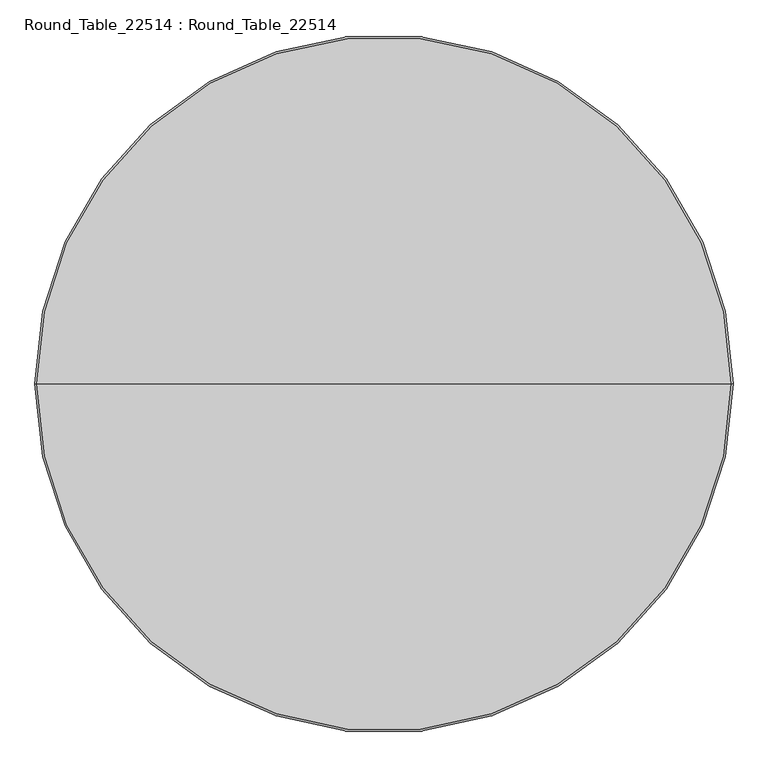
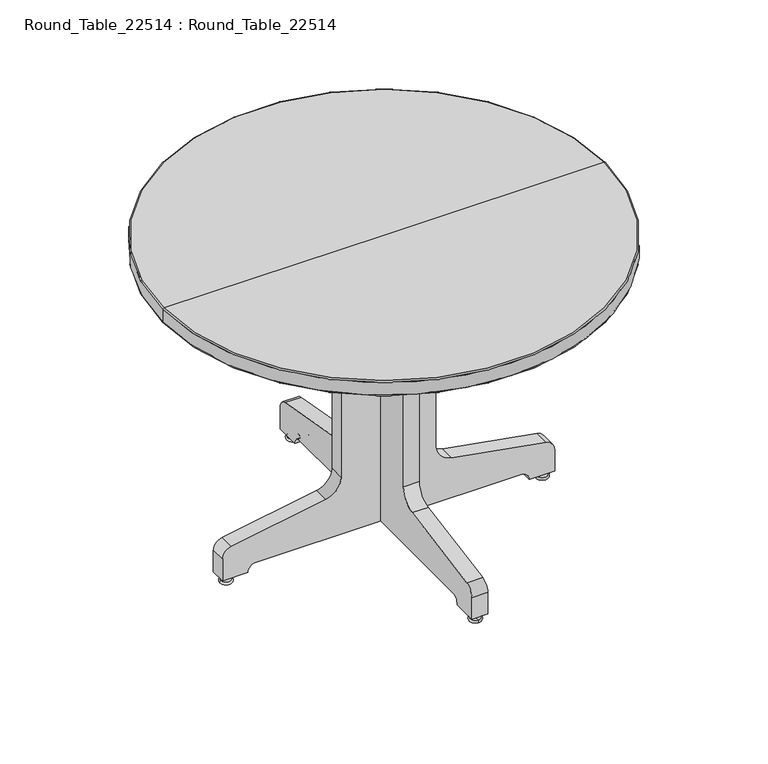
"""IFC4 building model written with IfcOpenShell, lengths in millimetres: furniture geometry, Round_Table_22514 : Round_Table_22514."""

from ifc_helpers import new_model, si_unit, point, frame, frame_2d, origin, place, context, project, spatial, polyline, circle_curve, ellipse_curve, trimmed, segment, composite_curve, outline, extrude, source, transform, mapped, element, save
from ifc_brep_helpers import plane_surface, cylinder_surface, revolved_surface, advanced_brep


def round_table_22514_round_table_22514_44ccc18d(model_context):
    return source(origin(), model_context, "Body", "SolidModel", [
        advanced_brep(
        [(0.0, 378.3053743, 19.05), (0.0, 383.6946257, 19.05), (0.0, 381.0, 19.05), (0.0, 378.3053743, 6.35), (0.0, 383.6946257, 6.35), (0.0, 368.7803743, 6.35), (0.0, 393.2196257, 6.35), (0.0, 381.0, 0.0), (0.0, 393.2196257, 0.0), (0.0, 368.7803743, 0.0)],
        [
            (0, 1, circle_curve(frame((0.0, 381.0, 19.05), z_axis=(0.0, 0.0, 1.0), x_axis=(0.0, 1.0, 0.0)), 2.6946257)),
            (1, 2),
            (2, 0),
            (1, 0, circle_curve(frame((0.0, 381.0, 19.05), z_axis=(0.0, 0.0, 1.0), x_axis=(0.0, 1.0, 0.0)), 2.6946257)),
            (3, 4, circle_curve(frame((0.0, 381.0, 6.35), z_axis=(0.0, 0.0, 1.0), x_axis=(0.0, 1.0, 0.0)), 2.6946257)),
            (4, 1),
            (0, 3),
            (4, 3, circle_curve(frame((0.0, 381.0, 6.35), z_axis=(0.0, 0.0, 1.0), x_axis=(0.0, 1.0, 0.0)), 2.6946257)),
            (5, 6, circle_curve(frame((0.0, 381.0, 6.35), z_axis=(0.0, 0.0, 1.0), x_axis=(0.0, 1.0, 0.0)), 12.2196257)),
            (6, 4),
            (3, 5),
            (6, 5, circle_curve(frame((0.0, 381.0, 6.35), z_axis=(0.0, 0.0, 1.0), x_axis=(0.0, 1.0, 0.0)), 12.2196257)),
            (7, 8),
            (8, 9, circle_curve(frame((0.0, 381.0, 0.0), z_axis=(0.0, 0.0, -1.0), x_axis=(0.0, 1.0, 0.0)), 12.2196257)),
            (9, 7),
            (9, 8, circle_curve(frame((0.0, 381.0, 0.0), z_axis=(0.0, 0.0, -1.0), x_axis=(0.0, 1.0, 0.0)), 12.2196257)),
            (8, 6, circle_curve(frame((0.0, 393.2196257, 3.175), z_axis=(1.0, 0.0, 0.0), x_axis=(0.0, -1.0, 0.0)), 3.175)),
            (5, 9, circle_curve(frame((0.0, 368.7803743, 3.175), z_axis=(1.0, 0.0, 0.0), x_axis=(0.0, 1.0, 0.0)), 3.175)),
        ],
        [
            plane_surface(frame((0.0, 381.0, 19.05), z_axis=(0.0, 0.0, 1.0), x_axis=(0.0, 1.0, 0.0))),
            cylinder_surface(frame((0.0, 381.0, 58.8270452), z_axis=(0.0, 0.0, -1.0), x_axis=(0.0, 1.0, 0.0)), 2.6946257),
            plane_surface(frame((0.0, 381.0, 6.35), z_axis=(0.0, 0.0, 1.0), x_axis=(0.0, 1.0, 0.0))),
            plane_surface(frame((0.0, 381.0, 0.0), z_axis=(0.0, 0.0, -1.0), x_axis=(0.0, 1.0, 0.0))),
            revolved_surface(trimmed(ellipse_curve(frame((0.0, 393.2196257, 3.175), z_axis=(-1.0, 0.0, 0.0), x_axis=(0.0, -1.0, 0.0)), 3.175, 3.175), [point((0.0, 393.2196257, 6.35))], [point((0.0, 393.2196257, 0.0))], True, "CARTESIAN"), (0.0, 381.0, 58.8270452), (0.0, 0.0, -1.0)),
        ],
        [
            (0, [[1, 2, 3]]),
            (0, [[4, -3, -2]]),
            (1, [[5, 6, -1, 7]]),
            (1, [[8, -7, -4, -6]]),
            (2, [[9, 10, -5, 11]]),
            (2, [[12, -11, -8, -10]]),
            (3, [[13, 14, 15]]),
            (3, [[-15, 16, -13]]),
            (4, [[-14, 17, -9, 18]]),
            (4, [[-16, -18, -12, -17]]),
        ],
    ),
        extrude(outline(composite_curve([segment(polyline([(19.05, 711.2), (349.25, 711.2), (311.15, 673.1), (114.3, 673.1), (114.3, 183.2947336)]), True, "CONTINUOUS"), segment(trimmed(circle_curve(frame_2d((158.75, 183.2947336)), 44.45), [point((114.3, 183.2947336))], [point((150.9697683, 139.5309301))], True, "CARTESIAN"), True, "CONTINUOUS"), segment(polyline([(150.9697683, 139.5309301), (379.0958467, 98.9751828)]), True, "CONTINUOUS"), segment(trimmed(circle_curve(frame_2d((374.65, 73.9672951)), 25.4), [point((379.0958467, 98.9751828))], [point((400.05, 73.9672951))], False, "CARTESIAN"), True, "CONTINUOUS"), segment(polyline([(400.05, 73.9672951), (400.05, 19.05), (339.1450517, 19.05)]), True, "CONTINUOUS"), segment(trimmed(circle_curve(frame_2d((320.0950517, 19.05)), 19.05), [point((339.1450517, 19.05))], [point((320.0950517, 38.1))], True, "CARTESIAN"), True, "CONTINUOUS"), segment(polyline([(320.0950517, 38.1), (19.05, 38.1), (19.05, 711.2)]), True, "CONTINUOUS")], self_intersect=False)), frame((-19.05, 0.0, 0.0), z_axis=(1.0, 0.0, 0.0), x_axis=(0.0, 1.0, 0.0)), (0.0, 0.0, 1.0), 38.1),
        advanced_brep(
        [(0.0, -381.0, 19.05), (0.0, -383.6946257, 19.05), (0.0, -378.3053743, 19.05), (0.0, -383.6946257, 6.35), (0.0, -378.3053743, 6.35), (0.0, -393.2196257, 6.35), (0.0, -368.7803743, 6.35), (0.0, -368.7803743, 0.0), (0.0, -393.2196257, 0.0), (0.0, -381.0, 0.0)],
        [
            (0, 1),
            (1, 2, circle_curve(frame((0.0, -381.0, 19.05), z_axis=(0.0, 0.0, 1.0), x_axis=(0.0, -1.0, 0.0)), 2.6946257)),
            (2, 0),
            (2, 1, circle_curve(frame((0.0, -381.0, 19.05), z_axis=(0.0, 0.0, 1.0), x_axis=(0.0, -1.0, 0.0)), 2.6946257)),
            (1, 3),
            (3, 4, circle_curve(frame((0.0, -381.0, 6.35), z_axis=(0.0, 0.0, 1.0), x_axis=(0.0, -1.0, 0.0)), 2.6946257)),
            (4, 2),
            (4, 3, circle_curve(frame((0.0, -381.0, 6.35), z_axis=(0.0, 0.0, 1.0), x_axis=(0.0, -1.0, 0.0)), 2.6946257)),
            (3, 5),
            (5, 6, circle_curve(frame((0.0, -381.0, 6.35), z_axis=(0.0, 0.0, 1.0), x_axis=(0.0, -1.0, 0.0)), 12.2196257)),
            (6, 4),
            (6, 5, circle_curve(frame((0.0, -381.0, 6.35), z_axis=(0.0, 0.0, 1.0), x_axis=(0.0, -1.0, 0.0)), 12.2196257)),
            (7, 8, circle_curve(frame((0.0, -381.0, 0.0), z_axis=(0.0, 0.0, -1.0), x_axis=(0.0, -1.0, 0.0)), 12.2196257)),
            (8, 9),
            (9, 7),
            (8, 7, circle_curve(frame((0.0, -381.0, 0.0), z_axis=(0.0, 0.0, -1.0), x_axis=(0.0, -1.0, 0.0)), 12.2196257)),
            (5, 8, circle_curve(frame((0.0, -393.2196257, 3.175), z_axis=(1.0, 0.0, 0.0), x_axis=(0.0, 1.0, 0.0)), 3.175)),
            (7, 6, circle_curve(frame((0.0, -368.7803743, 3.175), z_axis=(1.0, 0.0, 0.0), x_axis=(0.0, -1.0, 0.0)), 3.175)),
        ],
        [
            plane_surface(frame((0.0, -381.0, 19.05), z_axis=(0.0, 0.0, 1.0), x_axis=(0.0, -1.0, 0.0))),
            cylinder_surface(frame((0.0, -381.0, 58.8270452), z_axis=(0.0, 0.0, 1.0), x_axis=(0.0, -1.0, 0.0)), 2.6946257),
            plane_surface(frame((0.0, -381.0, 6.35), z_axis=(0.0, 0.0, 1.0), x_axis=(0.0, -1.0, 0.0))),
            plane_surface(frame((0.0, -381.0, 0.0), z_axis=(0.0, 0.0, -1.0), x_axis=(0.0, -1.0, 0.0))),
            revolved_surface(trimmed(ellipse_curve(frame((0.0, -393.2196257, 3.175), z_axis=(-1.0, 0.0, 0.0), x_axis=(0.0, 1.0, 0.0)), 3.175, 3.175), [point((0.0, -393.2196257, 0.0))], [point((0.0, -393.2196257, 6.35))], True, "CARTESIAN"), (0.0, -381.0, 58.8270452), (0.0, 0.0, 1.0)),
        ],
        [
            (0, [[1, 2, 3]]),
            (0, [[-3, 4, -1]]),
            (1, [[-2, 5, 6, 7]]),
            (1, [[-4, -7, 8, -5]]),
            (2, [[-6, 9, 10, 11]]),
            (2, [[-8, -11, 12, -9]]),
            (3, [[13, 14, 15]]),
            (3, [[16, -15, -14]]),
            (4, [[-10, 17, -13, 18]]),
            (4, [[-12, -18, -16, -17]]),
        ],
    ),
        extrude(outline(composite_curve([segment(polyline([(-19.05, 711.2), (-19.05, 38.1), (-320.0950517, 38.1)]), True, "CONTINUOUS"), segment(trimmed(circle_curve(frame_2d((-320.0950517, 19.05)), 19.05), [point((-320.0950517, 38.1))], [point((-339.1450517, 19.05))], True, "CARTESIAN"), True, "CONTINUOUS"), segment(polyline([(-339.1450517, 19.05), (-400.05, 19.05), (-400.05, 73.9672951)]), True, "CONTINUOUS"), segment(trimmed(circle_curve(frame_2d((-374.65, 73.9672951)), 25.4), [point((-400.05, 73.9672951))], [point((-379.0958467, 98.9751828))], False, "CARTESIAN"), True, "CONTINUOUS"), segment(polyline([(-379.0958467, 98.9751828), (-150.9697683, 139.5309301)]), True, "CONTINUOUS"), segment(trimmed(circle_curve(frame_2d((-158.75, 183.2947336)), 44.45), [point((-150.9697683, 139.5309301))], [point((-114.3, 183.2947336))], True, "CARTESIAN"), True, "CONTINUOUS"), segment(polyline([(-114.3, 183.2947336), (-114.3, 673.1), (-311.15, 673.1), (-349.25, 711.2), (-19.05, 711.2)]), True, "CONTINUOUS")], self_intersect=False)), frame((-19.05, 0.0, 0.0), z_axis=(1.0, 0.0, 0.0), x_axis=(0.0, 1.0, 0.0)), (0.0, 0.0, 1.0), 38.1),
        advanced_brep(
        [(381.0, 0.0, 19.05), (383.6946257, 0.0, 19.05), (378.3053743, 0.0, 19.05), (383.6946257, 0.0, 6.35), (378.3053743, 0.0, 6.35), (393.2196257, 0.0, 6.35), (368.7803743, 0.0, 6.35), (368.7803743, 0.0, 0.0), (393.2196257, 0.0, 0.0), (381.0, 0.0, 0.0)],
        [
            (0, 1),
            (1, 2, circle_curve(frame((381.0, 0.0, 19.05), z_axis=(0.0, 0.0, 1.0), x_axis=(1.0, 0.0, 0.0)), 2.6946257)),
            (2, 0),
            (2, 1, circle_curve(frame((381.0, 0.0, 19.05), z_axis=(0.0, 0.0, 1.0), x_axis=(1.0, 0.0, 0.0)), 2.6946257)),
            (1, 3),
            (3, 4, circle_curve(frame((381.0, 0.0, 6.35), z_axis=(0.0, 0.0, 1.0), x_axis=(1.0, 0.0, 0.0)), 2.6946257)),
            (4, 2),
            (4, 3, circle_curve(frame((381.0, 0.0, 6.35), z_axis=(0.0, 0.0, 1.0), x_axis=(1.0, 0.0, 0.0)), 2.6946257)),
            (3, 5),
            (5, 6, circle_curve(frame((381.0, 0.0, 6.35), z_axis=(0.0, 0.0, 1.0), x_axis=(1.0, 0.0, 0.0)), 12.2196257)),
            (6, 4),
            (6, 5, circle_curve(frame((381.0, 0.0, 6.35), z_axis=(0.0, 0.0, 1.0), x_axis=(1.0, 0.0, 0.0)), 12.2196257)),
            (7, 8, circle_curve(frame((381.0, 0.0, 0.0), z_axis=(0.0, 0.0, -1.0), x_axis=(1.0, 0.0, 0.0)), 12.2196257)),
            (8, 9),
            (9, 7),
            (8, 7, circle_curve(frame((381.0, 0.0, 0.0), z_axis=(0.0, 0.0, -1.0), x_axis=(1.0, 0.0, 0.0)), 12.2196257)),
            (5, 8, circle_curve(frame((393.2196257, 0.0, 3.175), z_axis=(0.0, 1.0, 0.0), x_axis=(-1.0, 0.0, 0.0)), 3.175)),
            (7, 6, circle_curve(frame((368.7803743, 0.0, 3.175), z_axis=(0.0, 1.0, 0.0), x_axis=(1.0, 0.0, 0.0)), 3.175)),
        ],
        [
            plane_surface(frame((381.0, 0.0, 19.05), z_axis=(0.0, 0.0, 1.0), x_axis=(1.0, 0.0, 0.0))),
            cylinder_surface(frame((381.0, 0.0, 58.8270452), z_axis=(0.0, 0.0, 1.0), x_axis=(1.0, 0.0, 0.0)), 2.6946257),
            plane_surface(frame((381.0, 0.0, 6.35), z_axis=(0.0, 0.0, 1.0), x_axis=(1.0, 0.0, 0.0))),
            plane_surface(frame((381.0, 0.0, 0.0), z_axis=(0.0, 0.0, -1.0), x_axis=(1.0, 0.0, 0.0))),
            revolved_surface(trimmed(ellipse_curve(frame((393.2196257, 0.0, 3.175), z_axis=(0.0, -1.0, 0.0), x_axis=(-1.0, 0.0, 0.0)), 3.175, 3.175), [point((393.2196257, 0.0, 0.0))], [point((393.2196257, 0.0, 6.35))], True, "CARTESIAN"), (381.0, 0.0, 58.8270452), (0.0, 0.0, 1.0)),
        ],
        [
            (0, [[1, 2, 3]]),
            (0, [[-3, 4, -1]]),
            (1, [[-2, 5, 6, 7]]),
            (1, [[-4, -7, 8, -5]]),
            (2, [[-6, 9, 10, 11]]),
            (2, [[-8, -11, 12, -9]]),
            (3, [[13, 14, 15]]),
            (3, [[16, -15, -14]]),
            (4, [[-10, 17, -13, 18]]),
            (4, [[-12, -18, -16, -17]]),
        ],
    ),
        extrude(outline(composite_curve([segment(polyline([(711.2, 19.05), (38.1, 19.05), (38.1, 320.0950517)]), True, "CONTINUOUS"), segment(trimmed(circle_curve(frame_2d((19.05, 320.0950517)), 19.05), [point((38.1, 320.0950517))], [point((19.05, 339.1450517))], True, "CARTESIAN"), True, "CONTINUOUS"), segment(polyline([(19.05, 339.1450517), (19.05, 400.05), (73.9672951, 400.05)]), True, "CONTINUOUS"), segment(trimmed(circle_curve(frame_2d((73.9672951, 374.65)), 25.4), [point((73.9672951, 400.05))], [point((98.9751828, 379.0958467))], False, "CARTESIAN"), True, "CONTINUOUS"), segment(polyline([(98.9751828, 379.0958467), (139.5309301, 150.9697683)]), True, "CONTINUOUS"), segment(trimmed(circle_curve(frame_2d((183.2947336, 158.75)), 44.45), [point((139.5309301, 150.9697683))], [point((183.2947336, 114.3))], True, "CARTESIAN"), True, "CONTINUOUS"), segment(polyline([(183.2947336, 114.3), (673.1, 114.3), (673.1, 311.15), (711.2, 349.25), (711.2, 19.05)]), True, "CONTINUOUS")], self_intersect=False)), frame((0.0, -19.05, 0.0), z_axis=(0.0, 1.0, 0.0), x_axis=(0.0, 0.0, 1.0)), (0.0, 0.0, 1.0), 38.1),
        advanced_brep(
        [(-378.3053743, 0.0, 19.05), (-383.6946257, 0.0, 19.05), (-381.0, 0.0, 19.05), (-378.3053743, 0.0, 6.35), (-383.6946257, 0.0, 6.35), (-368.7803743, 0.0, 6.35), (-393.2196257, 0.0, 6.35), (-381.0, 0.0, 0.0), (-393.2196257, 0.0, 0.0), (-368.7803743, 0.0, 0.0)],
        [
            (0, 1, circle_curve(frame((-381.0, 0.0, 19.05), z_axis=(0.0, 0.0, 1.0), x_axis=(-1.0, 0.0, 0.0)), 2.6946257)),
            (1, 2),
            (2, 0),
            (1, 0, circle_curve(frame((-381.0, 0.0, 19.05), z_axis=(0.0, 0.0, 1.0), x_axis=(-1.0, 0.0, 0.0)), 2.6946257)),
            (3, 4, circle_curve(frame((-381.0, 0.0, 6.35), z_axis=(0.0, 0.0, 1.0), x_axis=(-1.0, 0.0, 0.0)), 2.6946257)),
            (4, 1),
            (0, 3),
            (4, 3, circle_curve(frame((-381.0, 0.0, 6.35), z_axis=(0.0, 0.0, 1.0), x_axis=(-1.0, 0.0, 0.0)), 2.6946257)),
            (5, 6, circle_curve(frame((-381.0, 0.0, 6.35), z_axis=(0.0, 0.0, 1.0), x_axis=(-1.0, 0.0, 0.0)), 12.2196257)),
            (6, 4),
            (3, 5),
            (6, 5, circle_curve(frame((-381.0, 0.0, 6.35), z_axis=(0.0, 0.0, 1.0), x_axis=(-1.0, 0.0, 0.0)), 12.2196257)),
            (7, 8),
            (8, 9, circle_curve(frame((-381.0, 0.0, 0.0), z_axis=(0.0, 0.0, -1.0), x_axis=(-1.0, 0.0, 0.0)), 12.2196257)),
            (9, 7),
            (9, 8, circle_curve(frame((-381.0, 0.0, 0.0), z_axis=(0.0, 0.0, -1.0), x_axis=(-1.0, 0.0, 0.0)), 12.2196257)),
            (8, 6, circle_curve(frame((-393.2196257, 0.0, 3.175), z_axis=(0.0, 1.0, 0.0), x_axis=(1.0, 0.0, 0.0)), 3.175)),
            (5, 9, circle_curve(frame((-368.7803743, 0.0, 3.175), z_axis=(0.0, 1.0, 0.0), x_axis=(-1.0, 0.0, 0.0)), 3.175)),
        ],
        [
            plane_surface(frame((-381.0, 0.0, 19.05), z_axis=(0.0, 0.0, 1.0), x_axis=(-1.0, 0.0, 0.0))),
            cylinder_surface(frame((-381.0, 0.0, 58.8270452), z_axis=(0.0, 0.0, -1.0), x_axis=(-1.0, 0.0, 0.0)), 2.6946257),
            plane_surface(frame((-381.0, 0.0, 6.35), z_axis=(0.0, 0.0, 1.0), x_axis=(-1.0, 0.0, 0.0))),
            plane_surface(frame((-381.0, 0.0, 0.0), z_axis=(0.0, 0.0, -1.0), x_axis=(-1.0, 0.0, 0.0))),
            revolved_surface(trimmed(ellipse_curve(frame((-393.2196257, 0.0, 3.175), z_axis=(0.0, -1.0, 0.0), x_axis=(1.0, 0.0, 0.0)), 3.175, 3.175), [point((-393.2196257, 0.0, 6.35))], [point((-393.2196257, 0.0, 0.0))], True, "CARTESIAN"), (-381.0, 0.0, 58.8270452), (0.0, 0.0, -1.0)),
        ],
        [
            (0, [[1, 2, 3]]),
            (0, [[4, -3, -2]]),
            (1, [[5, 6, -1, 7]]),
            (1, [[8, -7, -4, -6]]),
            (2, [[9, 10, -5, 11]]),
            (2, [[12, -11, -8, -10]]),
            (3, [[13, 14, 15]]),
            (3, [[-15, 16, -13]]),
            (4, [[-14, 17, -9, 18]]),
            (4, [[-16, -18, -12, -17]]),
        ],
    ),
        extrude(outline(composite_curve([segment(polyline([(711.2, -19.05), (711.2, -349.25), (673.1, -311.15), (673.1, -114.3), (183.2947336, -114.3)]), True, "CONTINUOUS"), segment(trimmed(circle_curve(frame_2d((183.2947336, -158.75)), 44.45), [point((183.2947336, -114.3))], [point((139.5309301, -150.9697683))], True, "CARTESIAN"), True, "CONTINUOUS"), segment(polyline([(139.5309301, -150.9697683), (98.9751828, -379.0958467)]), True, "CONTINUOUS"), segment(trimmed(circle_curve(frame_2d((73.9672951, -374.65)), 25.4), [point((98.9751828, -379.0958467))], [point((73.9672951, -400.05))], False, "CARTESIAN"), True, "CONTINUOUS"), segment(polyline([(73.9672951, -400.05), (19.05, -400.05), (19.05, -339.1450517)]), True, "CONTINUOUS"), segment(trimmed(circle_curve(frame_2d((19.05, -320.0950517)), 19.05), [point((19.05, -339.1450517))], [point((38.1, -320.0950517))], True, "CARTESIAN"), True, "CONTINUOUS"), segment(polyline([(38.1, -320.0950517), (38.1, -19.05), (711.2, -19.05)]), True, "CONTINUOUS")], self_intersect=False)), frame((0.0, -19.05, 0.0), z_axis=(0.0, 1.0, 0.0), x_axis=(0.0, 0.0, 1.0)), (0.0, 0.0, 1.0), 38.1),
        advanced_brep(
        [(0.0, 0.0, 749.3), (530.225, 0.0, 749.3), (-530.225, 0.0, 749.3), (-530.225, 0.0, 711.2), (530.225, 0.0, 711.2), (0.0, 0.0, 711.2), (-533.4, 0.0, 714.375), (533.4, 0.0, 714.375), (-533.4, 0.0, 746.125), (533.4, 0.0, 746.125)],
        [
            (0, 1),
            (1, 2, circle_curve(frame((0.0, 0.0, 749.3), z_axis=(0.0, 0.0, 1.0), x_axis=(1.0, 0.0, 0.0)), 530.225)),
            (2, 0),
            (2, 1, circle_curve(frame((0.0, 0.0, 749.3), z_axis=(0.0, 0.0, 1.0), x_axis=(1.0, 0.0, 0.0)), 530.225)),
            (3, 4, circle_curve(frame((0.0, 0.0, 711.2), z_axis=(0.0, 0.0, -1.0), x_axis=(1.0, 0.0, 0.0)), 530.225)),
            (4, 5),
            (5, 3),
            (4, 3, circle_curve(frame((0.0, 0.0, 711.2), z_axis=(0.0, 0.0, -1.0), x_axis=(1.0, 0.0, 0.0)), 530.225)),
            (6, 7, circle_curve(frame((0.0, 0.0, 714.375), z_axis=(0.0, 0.0, -1.0), x_axis=(1.0, 0.0, 0.0)), 533.4)),
            (7, 4, circle_curve(frame((530.225, 0.0, 714.375), z_axis=(0.0, 1.0, 0.0), x_axis=(1.0, 0.0, 0.0)), 3.175)),
            (3, 6, circle_curve(frame((-530.225, 0.0, 714.375), z_axis=(0.0, 1.0, 0.0), x_axis=(-1.0, 0.0, 0.0)), 3.175)),
            (7, 6, circle_curve(frame((0.0, 0.0, 714.375), z_axis=(0.0, 0.0, -1.0), x_axis=(1.0, 0.0, 0.0)), 533.4)),
            (8, 9, circle_curve(frame((0.0, 0.0, 746.125), z_axis=(0.0, 0.0, -1.0), x_axis=(1.0, 0.0, 0.0)), 533.4)),
            (9, 7),
            (6, 8),
            (9, 8, circle_curve(frame((0.0, 0.0, 746.125), z_axis=(0.0, 0.0, -1.0), x_axis=(1.0, 0.0, 0.0)), 533.4)),
            (1, 9, circle_curve(frame((530.225, 0.0, 746.125), z_axis=(0.0, 1.0, 0.0), x_axis=(1.0, 0.0, 0.0)), 3.175)),
            (8, 2, circle_curve(frame((-530.225, 0.0, 746.125), z_axis=(0.0, 1.0, 0.0), x_axis=(-1.0, 0.0, 0.0)), 3.175)),
        ],
        [
            plane_surface(frame((0.0, 0.0, 749.3), z_axis=(0.0, 0.0, 1.0), x_axis=(1.0, 0.0, 0.0))),
            plane_surface(frame((0.0, 0.0, 711.2), z_axis=(0.0, 0.0, -1.0), x_axis=(1.0, 0.0, 0.0))),
            revolved_surface(trimmed(ellipse_curve(frame((530.225, 0.0, 714.375), z_axis=(0.0, -1.0, 0.0), x_axis=(1.0, 0.0, 0.0)), 3.175, 3.175), [point((530.225, 0.0, 711.2))], [point((533.4, 0.0, 714.375))], True, "CARTESIAN"), (0.0, 0.0, 2609.0581012), (0.0, 0.0, 1.0)),
            cylinder_surface(frame((0.0, 0.0, 2609.0581012), z_axis=(0.0, 0.0, 1.0), x_axis=(1.0, 0.0, 0.0)), 533.4),
            revolved_surface(trimmed(ellipse_curve(frame((530.225, 0.0, 746.125), z_axis=(0.0, -1.0, 0.0), x_axis=(1.0, 0.0, 0.0)), 3.175, 3.175), [point((533.4, 0.0, 746.125))], [point((530.225, 0.0, 749.3))], True, "CARTESIAN"), (0.0, 0.0, 2609.0581012), (0.0, 0.0, 1.0)),
        ],
        [
            (0, [[1, 2, 3]]),
            (0, [[-3, 4, -1]]),
            (1, [[5, 6, 7]]),
            (1, [[8, -7, -6]]),
            (2, [[9, 10, -5, 11]]),
            (2, [[12, -11, -8, -10]]),
            (3, [[13, 14, -9, 15]]),
            (3, [[16, -15, -12, -14]]),
            (4, [[-2, 17, -13, 18]]),
            (4, [[-4, -18, -16, -17]]),
        ],
    ),
    ])


if __name__ == "__main__":
    model = new_model("IFC4")
    model_context = context("Model", 3, world=origin())
    ifc_project = project(units=[si_unit("LENGTHUNIT", "METRE", prefix="MILLI")], contexts=[model_context])
    site = spatial("IfcSite", under=ifc_project)
    building = spatial("IfcBuilding", under=site)
    placement = place(None, origin())
    round_table_22514_round_table_22514_shape = round_table_22514_round_table_22514_44ccc18d(model_context)
    element("IfcFurniture", 1, ObjectType="Round_Table_22514 : Round_Table_22514", at=placement, inside=building, context=model_context, shape_type="MappedRepresentation", body=[
        mapped(round_table_22514_round_table_22514_shape, transform((0.0, 0.0, 0.0), x_axis=(1.0, 0.0, 0.0), y_axis=(0.0, 1.0, 0.0), z_axis=(0.0, 0.0, 1.0))),
    ])
    save(model, "model.ifc")
